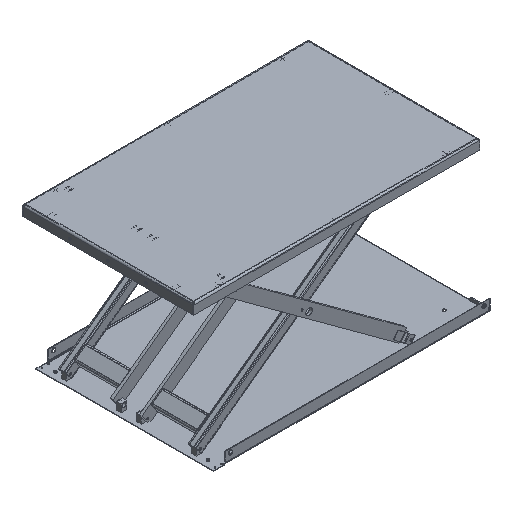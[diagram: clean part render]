
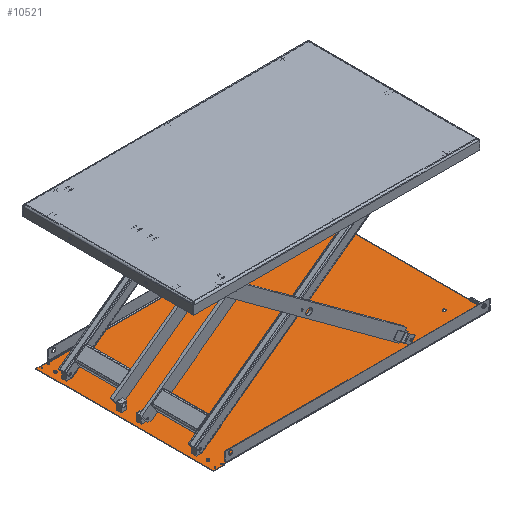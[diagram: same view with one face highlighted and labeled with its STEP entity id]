
A CAD part, isometric view. The second image highlights one B-rep face of the part: STEP entity #10521.
In plain terms, the highlighted planar face has unit normal (0, 0, 1).
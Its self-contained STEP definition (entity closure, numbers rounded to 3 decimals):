
#388=PLANE('',#11311);
#703=LINE('',#15592,#1687);
#706=LINE('',#15600,#1690);
#708=LINE('',#15604,#1692);
#712=LINE('',#15610,#1696);
#713=LINE('',#15613,#1697);
#714=LINE('',#15615,#1698);
#715=LINE('',#15617,#1699);
#716=LINE('',#15619,#1700);
#717=LINE('',#15621,#1701);
#718=LINE('',#15623,#1702);
#719=LINE('',#15625,#1703);
#720=LINE('',#15626,#1704);
#1687=VECTOR('',#12458,10.);
#1690=VECTOR('',#12463,10.);
#1692=VECTOR('',#12467,10.);
#1696=VECTOR('',#12473,10.);
#1697=VECTOR('',#12476,10.);
#1698=VECTOR('',#12477,10.);
#1699=VECTOR('',#12478,10.);
#1700=VECTOR('',#12479,10.);
#1701=VECTOR('',#12480,10.);
#1702=VECTOR('',#12481,10.);
#1703=VECTOR('',#12482,10.);
#1704=VECTOR('',#12483,10.);
#2672=FACE_BOUND('',#3453,.T.);
#2673=FACE_BOUND('',#3454,.T.);
#2674=FACE_BOUND('',#3455,.T.);
#2675=FACE_BOUND('',#3456,.T.);
#2676=FACE_BOUND('',#3457,.T.);
#2677=FACE_BOUND('',#3458,.T.);
#2678=FACE_BOUND('',#3459,.T.);
#2679=FACE_BOUND('',#3460,.T.);
#2851=FACE_OUTER_BOUND('',#3452,.T.);
#3452=EDGE_LOOP('',(#7263,#7264,#7265,#7266,#7267,#7268,#7269,#7270,#7271,
#7272,#7273,#7274));
#3453=EDGE_LOOP('',(#7275));
#3454=EDGE_LOOP('',(#7276));
#3455=EDGE_LOOP('',(#7277));
#3456=EDGE_LOOP('',(#7278));
#3457=EDGE_LOOP('',(#7279));
#3458=EDGE_LOOP('',(#7280));
#3459=EDGE_LOOP('',(#7281));
#3460=EDGE_LOOP('',(#7282));
#4168=CIRCLE('',#11260,2.35);
#4170=CIRCLE('',#11263,2.35);
#4172=CIRCLE('',#11266,2.35);
#4174=CIRCLE('',#11269,2.35);
#4184=CIRCLE('',#11284,7.);
#4186=CIRCLE('',#11287,7.);
#4188=CIRCLE('',#11290,7.);
#4190=CIRCLE('',#11293,7.);
#4621=VERTEX_POINT('',#15493);
#4623=VERTEX_POINT('',#15498);
#4625=VERTEX_POINT('',#15503);
#4627=VERTEX_POINT('',#15508);
#4637=VERTEX_POINT('',#15533);
#4639=VERTEX_POINT('',#15538);
#4641=VERTEX_POINT('',#15543);
#4643=VERTEX_POINT('',#15548);
#4654=VERTEX_POINT('',#15577);
#4655=VERTEX_POINT('',#15581);
#4659=VERTEX_POINT('',#15597);
#4660=VERTEX_POINT('',#15599);
#4661=VERTEX_POINT('',#15603);
#4663=VERTEX_POINT('',#15612);
#4664=VERTEX_POINT('',#15614);
#4665=VERTEX_POINT('',#15616);
#4666=VERTEX_POINT('',#15618);
#4667=VERTEX_POINT('',#15620);
#4668=VERTEX_POINT('',#15622);
#4669=VERTEX_POINT('',#15624);
#5650=EDGE_CURVE('',#4621,#4621,#4168,.T.);
#5652=EDGE_CURVE('',#4623,#4623,#4170,.T.);
#5654=EDGE_CURVE('',#4625,#4625,#4172,.T.);
#5656=EDGE_CURVE('',#4627,#4627,#4174,.T.);
#5666=EDGE_CURVE('',#4637,#4637,#4184,.T.);
#5668=EDGE_CURVE('',#4639,#4639,#4186,.T.);
#5670=EDGE_CURVE('',#4641,#4641,#4188,.T.);
#5672=EDGE_CURVE('',#4643,#4643,#4190,.T.);
#5693=EDGE_CURVE('',#4654,#4655,#703,.T.);
#5696=EDGE_CURVE('',#4660,#4659,#706,.T.);
#5698=EDGE_CURVE('',#4661,#4654,#708,.T.);
#5702=EDGE_CURVE('',#4659,#4661,#712,.T.);
#5703=EDGE_CURVE('',#4663,#4655,#713,.T.);
#5704=EDGE_CURVE('',#4663,#4664,#714,.T.);
#5705=EDGE_CURVE('',#4664,#4665,#715,.T.);
#5706=EDGE_CURVE('',#4665,#4666,#716,.T.);
#5707=EDGE_CURVE('',#4666,#4667,#717,.T.);
#5708=EDGE_CURVE('',#4668,#4667,#718,.T.);
#5709=EDGE_CURVE('',#4669,#4668,#719,.T.);
#5710=EDGE_CURVE('',#4660,#4669,#720,.T.);
#7263=ORIENTED_EDGE('',*,*,#5696,.T.);
#7264=ORIENTED_EDGE('',*,*,#5702,.T.);
#7265=ORIENTED_EDGE('',*,*,#5698,.T.);
#7266=ORIENTED_EDGE('',*,*,#5693,.T.);
#7267=ORIENTED_EDGE('',*,*,#5703,.F.);
#7268=ORIENTED_EDGE('',*,*,#5704,.T.);
#7269=ORIENTED_EDGE('',*,*,#5705,.T.);
#7270=ORIENTED_EDGE('',*,*,#5706,.T.);
#7271=ORIENTED_EDGE('',*,*,#5707,.T.);
#7272=ORIENTED_EDGE('',*,*,#5708,.F.);
#7273=ORIENTED_EDGE('',*,*,#5709,.F.);
#7274=ORIENTED_EDGE('',*,*,#5710,.F.);
#7275=ORIENTED_EDGE('',*,*,#5650,.T.);
#7276=ORIENTED_EDGE('',*,*,#5652,.T.);
#7277=ORIENTED_EDGE('',*,*,#5654,.T.);
#7278=ORIENTED_EDGE('',*,*,#5656,.T.);
#7279=ORIENTED_EDGE('',*,*,#5666,.T.);
#7280=ORIENTED_EDGE('',*,*,#5668,.T.);
#7281=ORIENTED_EDGE('',*,*,#5670,.T.);
#7282=ORIENTED_EDGE('',*,*,#5672,.T.);
#10521=ADVANCED_FACE('',(#2851,#2672,#2673,#2674,#2675,#2676,#2677,#2678,
#2679),#388,.T.);
#11260=AXIS2_PLACEMENT_3D('',#15494,#12347,#12348);
#11263=AXIS2_PLACEMENT_3D('',#15499,#12353,#12354);
#11266=AXIS2_PLACEMENT_3D('',#15504,#12359,#12360);
#11269=AXIS2_PLACEMENT_3D('',#15509,#12365,#12366);
#11284=AXIS2_PLACEMENT_3D('',#15534,#12395,#12396);
#11287=AXIS2_PLACEMENT_3D('',#15539,#12401,#12402);
#11290=AXIS2_PLACEMENT_3D('',#15544,#12407,#12408);
#11293=AXIS2_PLACEMENT_3D('',#15549,#12413,#12414);
#11311=AXIS2_PLACEMENT_3D('',#15611,#12474,#12475);
#12347=DIRECTION('center_axis',(0.,0.,-1.));
#12348=DIRECTION('ref_axis',(1.,0.,0.));
#12353=DIRECTION('center_axis',(0.,0.,-1.));
#12354=DIRECTION('ref_axis',(1.,0.,0.));
#12359=DIRECTION('center_axis',(0.,0.,-1.));
#12360=DIRECTION('ref_axis',(1.,0.,0.));
#12365=DIRECTION('center_axis',(0.,0.,-1.));
#12366=DIRECTION('ref_axis',(1.,0.,0.));
#12395=DIRECTION('center_axis',(0.,0.,-1.));
#12396=DIRECTION('ref_axis',(1.,0.,0.));
#12401=DIRECTION('center_axis',(0.,0.,-1.));
#12402=DIRECTION('ref_axis',(1.,0.,0.));
#12407=DIRECTION('center_axis',(0.,0.,-1.));
#12408=DIRECTION('ref_axis',(1.,0.,0.));
#12413=DIRECTION('center_axis',(0.,0.,-1.));
#12414=DIRECTION('ref_axis',(1.,0.,0.));
#12458=DIRECTION('',(1.,0.,0.));
#12463=DIRECTION('',(0.,1.,0.));
#12467=DIRECTION('',(0.,-1.,0.));
#12473=DIRECTION('',(1.,0.,0.));
#12474=DIRECTION('center_axis',(0.,0.,1.));
#12475=DIRECTION('ref_axis',(1.,0.,0.));
#12476=DIRECTION('',(0.,-1.,0.));
#12477=DIRECTION('',(-1.,0.,0.));
#12478=DIRECTION('',(0.,-1.,0.));
#12479=DIRECTION('',(-1.,0.,0.));
#12480=DIRECTION('',(0.,1.,0.));
#12481=DIRECTION('',(1.,0.,0.));
#12482=DIRECTION('',(0.,1.,0.));
#12483=DIRECTION('',(-1.,0.,0.));
#15493=CARTESIAN_POINT('',(-702.65,-453.,3.));
#15494=CARTESIAN_POINT('Origin',(-705.,-453.,3.));
#15498=CARTESIAN_POINT('',(-668.65,-453.,3.));
#15499=CARTESIAN_POINT('Origin',(-671.,-453.,3.));
#15503=CARTESIAN_POINT('',(-668.65,453.,3.));
#15504=CARTESIAN_POINT('Origin',(-671.,453.,3.));
#15508=CARTESIAN_POINT('',(-702.65,453.,3.));
#15509=CARTESIAN_POINT('Origin',(-705.,453.,3.));
#15533=CARTESIAN_POINT('',(617.,-340.,3.));
#15534=CARTESIAN_POINT('Origin',(610.,-340.,3.));
#15538=CARTESIAN_POINT('',(617.,340.,3.));
#15539=CARTESIAN_POINT('Origin',(610.,340.,3.));
#15543=CARTESIAN_POINT('',(-681.,-400.,3.));
#15544=CARTESIAN_POINT('Origin',(-688.,-400.,3.));
#15548=CARTESIAN_POINT('',(-681.,400.,3.));
#15549=CARTESIAN_POINT('Origin',(-688.,400.,3.));
#15577=CARTESIAN_POINT('',(-663.,-459.,3.));
#15581=CARTESIAN_POINT('',(725.,-459.,3.));
#15592=CARTESIAN_POINT('',(362.5,-459.,3.));
#15597=CARTESIAN_POINT('',(-666.,-457.5,3.));
#15599=CARTESIAN_POINT('',(-666.,-465.,3.));
#15600=CARTESIAN_POINT('',(-666.,-228.75,3.));
#15603=CARTESIAN_POINT('',(-663.,-457.5,3.));
#15604=CARTESIAN_POINT('',(-663.,-232.5,3.));
#15610=CARTESIAN_POINT('',(-331.5,-457.5,3.));
#15611=CARTESIAN_POINT('Origin',(0.,0.,3.));
#15612=CARTESIAN_POINT('',(725.,459.,3.));
#15613=CARTESIAN_POINT('',(725.,465.,3.));
#15614=CARTESIAN_POINT('',(-663.,459.,3.));
#15615=CARTESIAN_POINT('',(-331.5,459.,3.));
#15616=CARTESIAN_POINT('',(-663.,457.5,3.));
#15617=CARTESIAN_POINT('',(-663.,228.75,3.));
#15618=CARTESIAN_POINT('',(-666.,457.5,3.));
#15619=CARTESIAN_POINT('',(-333.,457.5,3.));
#15620=CARTESIAN_POINT('',(-666.,465.,3.));
#15621=CARTESIAN_POINT('',(-666.,232.5,3.));
#15622=CARTESIAN_POINT('',(-725.,465.,3.));
#15623=CARTESIAN_POINT('',(-725.,465.,3.));
#15624=CARTESIAN_POINT('',(-725.,-465.,3.));
#15625=CARTESIAN_POINT('',(-725.,-465.,3.));
#15626=CARTESIAN_POINT('',(725.,-465.,3.));
